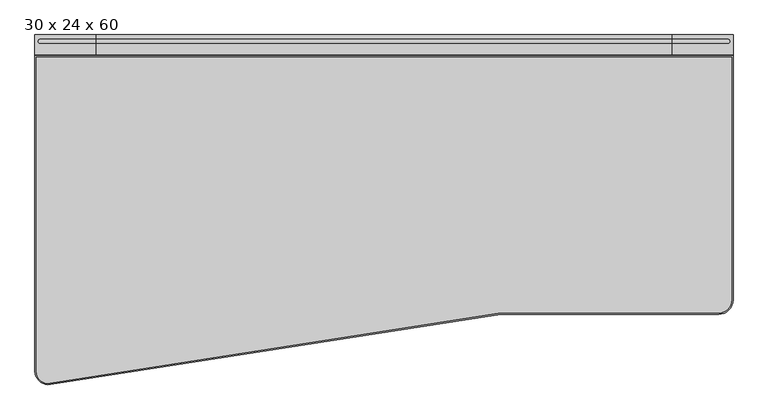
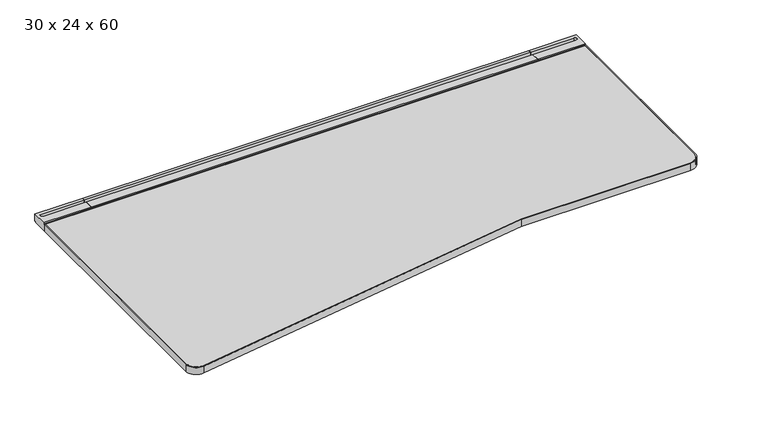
"""IFC4 building model written with IfcOpenShell, lengths in millimetres: furniture geometry, Steelcase - C Scape - Desking - Left Hand Transition : 30 x 24 x 60."""

from ifc_helpers import new_model, si_unit, point, frame, frame_2d, origin, place, context, project, spatial, polyline, circle_curve, trimmed, segment, composite_curve, outline, extrude, faceted_brep, source, transform, mapped, element, save
from ifc_brep_helpers import plane_surface, cylinder_surface, revolved_surface, advanced_brep


def furniture_30_x_24_x_60_703c3a2f(model_context):
    return source(origin(), model_context, "Body", "SolidModel", [
        advanced_brep(
        [(134.6072876, -45.3135132, 703.3768), (134.6072876, -4.0331902, 703.3768), (134.6072876, -3.2278472, 705.1038636), (134.6072876, 0.0, 705.1038636), (134.6072876, 0.0, 725.932), (134.6072876, -8.5111084, 725.932), (134.6072876, -8.5111084, 713.486), (134.6072876, -19.3290527, 713.486), (134.6072876, -19.3290527, 725.932), (134.6072876, -42.7750923, 725.932), (134.6072876, -42.7750923, 722.4268341), (134.6072876, -45.3135132, 722.4268341), (1.5875, -45.3135132, 703.3768), (1.5875, -45.3135132, 722.4268341), (1.5875, -42.7750923, 722.4268341), (1.5875, -42.7750923, 725.932), (1.5875, 0.0, 725.932), (1.5875, 0.0, 705.1038636), (1.5875, -3.2278472, 705.1038636), (1.5875, -4.0331902, 703.3768), (13.3495728, -19.3290527, 725.932), (13.3495728, -8.5111084, 725.932), (13.3495728, -8.5111084, 713.486), (13.3495728, -19.3290527, 713.486)],
        [
            (0, 1),
            (1, 2),
            (2, 3),
            (3, 4),
            (4, 5),
            (5, 6),
            (6, 7),
            (7, 8),
            (8, 9),
            (9, 10),
            (10, 11),
            (11, 0),
            (12, 13),
            (13, 14),
            (14, 15),
            (15, 16),
            (16, 17),
            (17, 18),
            (18, 19),
            (19, 12),
            (0, 12),
            (19, 1),
            (18, 2),
            (17, 3),
            (16, 4),
            (15, 9),
            (8, 20),
            (20, 21, circle_curve(frame((13.3495728, -13.9200806, 725.932), z_axis=(0.0, 0.0, -1.0), x_axis=(1.0, 0.0, 0.0)), 5.4089722)),
            (21, 5),
            (14, 10),
            (13, 11),
            (6, 22),
            (22, 23, circle_curve(frame((13.3495728, -13.9200806, 713.486), z_axis=(0.0, 0.0, 1.0), x_axis=(1.0, 0.0, 0.0)), 5.4089722)),
            (23, 7),
            (21, 22),
            (20, 23),
        ],
        [
            plane_surface(frame((134.6072876, -45.3135132, 703.3768), z_axis=(1.0, 0.0, 0.0), x_axis=(0.0, 1.0, 0.0))),
            plane_surface(frame((1.5875, -45.3135132, 703.3768), z_axis=(-1.0, 0.0, 0.0), x_axis=(0.0, -1.0, 0.0))),
            plane_surface(frame((134.6072876, -45.3135132, 703.3768), z_axis=(0.0, 0.0, -1.0), x_axis=(-1.0, 0.0, 0.0))),
            plane_surface(frame((134.6072876, -4.0331902, 703.3768), z_axis=(0.0, 0.9063077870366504, -0.4226182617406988), x_axis=(-1.0, 0.0, 0.0))),
            plane_surface(frame((134.6072876, -3.2278472, 705.1038636), z_axis=(0.0, 0.0, -1.0), x_axis=(-1.0, 0.0, 0.0))),
            plane_surface(frame((134.6072876, 0.0, 705.1038636), z_axis=(0.0, 1.0, 0.0), x_axis=(-1.0, 0.0, 0.0))),
            plane_surface(frame((134.6072876, 0.0, 725.932), z_axis=(0.0, 0.0, 1.0), x_axis=(-1.0, 0.0, 0.0))),
            plane_surface(frame((134.6072876, -42.7750923, 725.932), z_axis=(0.0, -1.0, 0.0), x_axis=(-1.0, 0.0, 0.0))),
            plane_surface(frame((134.6072876, -42.7750923, 722.4268341), z_axis=(0.0, 0.0, 1.0), x_axis=(-1.0, 0.0, 0.0))),
            plane_surface(frame((134.6072876, -45.3135132, 722.4268341), z_axis=(0.0, -1.0, 0.0), x_axis=(-1.0, 0.0, 0.0))),
            plane_surface(frame((13.3495728, -8.5111084, 713.486), z_axis=(0.0, 0.0, 1.0), x_axis=(1.0, 0.0, 0.0))),
            plane_surface(frame((134.6072876, -8.5111084, 731.2180541), z_axis=(0.0, -1.0, 0.0), x_axis=(0.0, 0.0, -1.0))),
            revolved_surface(polyline([(18.758545, -13.9200806, 725.932), (18.758545, -13.9200806, 713.486)]), (13.3495728, -13.9200806, 713.486), (0.0, 0.0, 1.0)),
            plane_surface(frame((13.3495728, -19.3290527, 731.2180541), z_axis=(0.0, 1.0, 0.0), x_axis=(0.0, 0.0, -1.0))),
        ],
        [
            (0, [[1, 2, 3, 4, 5, 6, 7, 8, 9, 10, 11, 12]]),
            (1, [[13, 14, 15, 16, 17, 18, 19, 20]]),
            (2, [[-1, 21, -20, 22]]),
            (3, [[-2, -22, -19, 23]]),
            (4, [[-3, -23, -18, 24]]),
            (5, [[-4, -24, -17, 25]]),
            (6, [[-16, 26, -9, 27, 28, 29, -5, -25]]),
            (7, [[-10, -26, -15, 30]]),
            (8, [[-11, -30, -14, 31]]),
            (9, [[-12, -31, -13, -21]]),
            (10, [[32, 33, 34, -7]]),
            (11, [[-32, -6, -29, 35]]),
            (12, [[-33, -35, -28, 36]]),
            (13, [[-34, -36, -27, -8]]),
        ],
    ),
        faceted_brep([(20.6382632, -565.0752923, 700.7093833), (34.9133728, -565.0752923, 693.4200291), (116.3525879, -565.0752923, 693.4200291), (118.9731301, -565.0752923, 679.3263935), (134.6072876, -565.0752923, 679.3263935), (134.6072876, -565.0752923, 703.3768), (20.6382632, -565.0752923, 703.3768), (20.6382632, -4.0331902, 700.7093833), (20.6382632, -4.0331902, 703.3768), (134.6072876, -4.0331902, 703.3768), (134.6072876, -4.0331902, 629.3866), (128.2588347, -4.0331902, 629.3866), (116.3525879, -4.0331902, 693.4200291), (34.9133728, -4.0331902, 693.4200291), (128.2588347, -364.1172546, 629.3866), (121.1384051, -376.5599397, 667.6812472), (134.6072876, -364.1172546, 629.3866), (134.6072876, -376.5599397, 667.6812472)], [[[0, 1, 2, 3, 4, 5, 6]], [[7, 8, 9, 10, 11, 12, 13]], [[1, 0, 7, 13]], [[2, 1, 13, 12]], [[12, 11, 14, 15, 3, 2]], [[11, 10, 16, 14]], [[10, 9, 5, 4, 17, 16]], [[6, 5, 9, 8]], [[0, 6, 8, 7]], [[15, 17, 4, 3]], [[17, 15, 14, 16]]]),
        extrude(outline(composite_curve([segment(polyline([(-293.5216187, 657.3775839), (-559.0022133, 680.1371551)]), True, "CONTINUOUS"), segment(trimmed(circle_curve(frame_2d((-558.7581271, 682.9843154)), 2.8576039), [point((-559.0022133, 680.1371551))], [point((-561.5383043, 682.3236226))], False, "CARTESIAN"), True, "CONTINUOUS"), segment(polyline([(-561.5383043, 682.3236226), (-566.0887542, 701.4717905), (-557.8334441, 701.4717905), (-557.8334441, 703.3768), (-442.6683806, 703.3768), (-442.6683806, 696.3917953), (-318.2108611, 696.3917953), (-318.2108611, 703.3768), (-293.5216187, 703.3768), (-293.5216187, 657.3775839)]), True, "CONTINUOUS")], self_intersect=False)), frame((725.424, 0.0, 0.0), z_axis=(1.0, 0.0, 0.0), x_axis=(0.0, 1.0, 0.0)), (0.0, 0.0, 1.0), 73.152),
        advanced_brep(
        [(1389.3927124, -45.3135132, 703.3768), (1389.3927124, -45.3135132, 722.4268341), (1389.3927124, -42.7750923, 722.4268341), (1389.3927124, -42.7750923, 725.932), (1389.3927124, -19.3290527, 725.932), (1389.3927124, -19.3290527, 713.486), (1389.3927124, -8.5111084, 713.486), (1389.3927124, -8.5111084, 725.932), (1389.3927124, 0.0, 725.932), (1389.3927124, 0.0, 705.1038636), (1389.3927124, -3.2278472, 705.1038636), (1389.3927124, -4.0331902, 703.3768), (1522.4125, -45.3135132, 703.3768), (1522.4125, -4.0331902, 703.3768), (1522.4125, -3.2278472, 705.1038636), (1522.4125, 0.0, 705.1038636), (1522.4125, 0.0, 725.932), (1522.4125, -42.7750923, 725.932), (1522.4125, -42.7750923, 722.4268341), (1522.4125, -45.3135132, 722.4268341), (1510.6504272, -8.5111084, 725.932), (1510.6504272, -19.3290527, 725.932), (1510.6504272, -19.3290527, 713.486), (1510.6504272, -8.5111084, 713.486)],
        [
            (0, 1),
            (1, 2),
            (2, 3),
            (3, 4),
            (4, 5),
            (5, 6),
            (6, 7),
            (7, 8),
            (8, 9),
            (9, 10),
            (10, 11),
            (11, 0),
            (12, 13),
            (13, 14),
            (14, 15),
            (15, 16),
            (16, 17),
            (17, 18),
            (18, 19),
            (19, 12),
            (11, 13),
            (12, 0),
            (10, 14),
            (9, 15),
            (8, 16),
            (7, 20),
            (20, 21, circle_curve(frame((1510.6504272, -13.9200806, 725.932), z_axis=(0.0, 0.0, -1.0), x_axis=(-1.0, 0.0, 0.0)), 5.4089722)),
            (21, 4),
            (3, 17),
            (2, 18),
            (1, 19),
            (5, 22),
            (22, 23, circle_curve(frame((1510.6504272, -13.9200806, 713.486), z_axis=(0.0, 0.0, 1.0), x_axis=(-1.0, 0.0, 0.0)), 5.4089722)),
            (23, 6),
            (23, 20),
            (22, 21),
        ],
        [
            plane_surface(frame((1389.3927124, -45.3135132, 703.3768), z_axis=(-1.0, 0.0, 0.0), x_axis=(0.0, 1.0, 0.0))),
            plane_surface(frame((1522.4125, -45.3135132, 703.3768), z_axis=(1.0, 0.0, 0.0), x_axis=(0.0, -1.0, 0.0))),
            plane_surface(frame((1389.3927124, -45.3135132, 703.3768), z_axis=(0.0, 0.0, -1.0), x_axis=(1.0, 0.0, 0.0))),
            plane_surface(frame((1389.3927124, -4.0331902, 703.3768), z_axis=(0.0, 0.9063077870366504, -0.4226182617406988), x_axis=(1.0, 0.0, 0.0))),
            plane_surface(frame((1389.3927124, -3.2278472, 705.1038636), z_axis=(0.0, 0.0, -1.0), x_axis=(1.0, 0.0, 0.0))),
            plane_surface(frame((1389.3927124, 0.0, 705.1038636), z_axis=(0.0, 1.0, 0.0), x_axis=(1.0, 0.0, 0.0))),
            plane_surface(frame((1389.3927124, 0.0, 725.932), z_axis=(0.0, 0.0, 1.0), x_axis=(1.0, 0.0, 0.0))),
            plane_surface(frame((1389.3927124, -42.7750923, 725.932), z_axis=(0.0, -1.0, 0.0), x_axis=(1.0, 0.0, 0.0))),
            plane_surface(frame((1389.3927124, -42.7750923, 722.4268341), z_axis=(0.0, 0.0, 1.0), x_axis=(1.0, 0.0, 0.0))),
            plane_surface(frame((1389.3927124, -45.3135132, 722.4268341), z_axis=(0.0, -1.0, 0.0), x_axis=(1.0, 0.0, 0.0))),
            plane_surface(frame((1510.6504272, -8.5111084, 713.486), z_axis=(0.0, 0.0, 1.0), x_axis=(-1.0, 0.0, 0.0))),
            plane_surface(frame((1389.3927124, -8.5111084, 731.2180541), z_axis=(0.0, -1.0, 0.0), x_axis=(0.0, 0.0, -1.0))),
            revolved_surface(polyline([(1505.2414549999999, -13.9200806, 725.932), (1505.2414549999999, -13.9200806, 713.486)]), (1510.6504272, -13.9200806, 713.486), (0.0, 0.0, 1.0)),
            plane_surface(frame((1510.6504272, -19.3290527, 731.2180541), z_axis=(0.0, 1.0, 0.0), x_axis=(0.0, 0.0, -1.0))),
        ],
        [
            (0, [[1, 2, 3, 4, 5, 6, 7, 8, 9, 10, 11, 12]]),
            (1, [[13, 14, 15, 16, 17, 18, 19, 20]]),
            (2, [[21, -13, 22, -12]]),
            (3, [[23, -14, -21, -11]]),
            (4, [[24, -15, -23, -10]]),
            (5, [[25, -16, -24, -9]]),
            (6, [[-25, -8, 26, 27, 28, -4, 29, -17]]),
            (7, [[30, -18, -29, -3]]),
            (8, [[31, -19, -30, -2]]),
            (9, [[-22, -20, -31, -1]]),
            (10, [[-6, 32, 33, 34]]),
            (11, [[35, -26, -7, -34]]),
            (12, [[36, -27, -35, -33]]),
            (13, [[-5, -28, -36, -32]]),
        ],
    ),
        faceted_brep([(1503.3617368, -565.0752923, 700.7093833), (1503.3617368, -565.0752923, 703.3768), (1389.3927124, -565.0752923, 703.3768), (1389.3927124, -565.0752923, 679.3263935), (1405.0268699, -565.0752923, 679.3263935), (1407.6474121, -565.0752923, 693.4200291), (1489.0866272, -565.0752923, 693.4200291), (1503.3617368, -4.0331902, 700.7093833), (1489.0866272, -4.0331902, 693.4200291), (1407.6474121, -4.0331902, 693.4200291), (1395.7411653, -4.0331902, 629.3866), (1389.3927124, -4.0331902, 629.3866), (1389.3927124, -4.0331902, 703.3768), (1503.3617368, -4.0331902, 703.3768), (1402.8615949, -376.5599397, 667.6812472), (1395.7411653, -364.1172546, 629.3866), (1389.3927124, -364.1172546, 629.3866), (1389.3927124, -376.5599397, 667.6812472)], [[[0, 1, 2, 3, 4, 5, 6]], [[7, 8, 9, 10, 11, 12, 13]], [[6, 8, 7, 0]], [[5, 9, 8, 6]], [[9, 5, 4, 14, 15, 10]], [[10, 15, 16, 11]], [[11, 16, 17, 3, 2, 12]], [[1, 13, 12, 2]], [[0, 7, 13, 1]], [[14, 4, 3, 17]], [[17, 16, 15, 14]]]),
        extrude(outline(polyline([(-8.5111084, 725.932), (0.0, 725.932), (0.0, 705.1038636), (-3.2278472, 705.1038636), (-4.0331902, 703.3768), (-45.3135132, 703.3768), (-45.3135132, 722.4268341), (-42.7750923, 722.4268341), (-42.7750923, 725.932), (-19.3290527, 725.932), (-19.3290527, 713.486), (-8.5111084, 713.486), (-8.5111084, 725.932)])), frame((134.6072876, 0.0, 0.0), z_axis=(1.0, 0.0, 0.0), x_axis=(0.0, 1.0, 0.0)), (0.0, 0.0, 1.0), 1254.7854248),
        extrude(outline(polyline([(1389.3927124, -4.0331902), (1389.3927124, -293.5216187), (134.6072876, -293.5216187), (134.6072876, -4.0331902), (1389.3927124, -4.0331902)])), frame((0.0, 0.0, 629.3866), z_axis=(0.0, 0.0, 1.0), x_axis=(1.0, 0.0, 0.0)), (0.0, 0.0, 1.0), 73.9902),
        advanced_brep(
        [(1519.3645, -48.3660689, 723.9), (4.6355, -48.3660689, 723.9), (4.6355, -734.677348, 723.9), (33.9511745, -759.7737122, 723.9), (1015.9997595, -606.5490234, 723.9), (1490.6625, -606.5490234, 723.9), (1519.3615234, -577.85, 723.9), (1519.3645, -48.3660689, 703.3768), (1519.3645, -577.85, 703.3768), (1490.6625, -606.5490234, 703.3768), (1015.9997595, -606.5490234, 703.3768), (33.9511745, -759.7737122, 703.3768), (4.6355, -734.677348, 703.3768), (4.6355, -48.3660689, 703.3768)],
        [
            (0, 1),
            (1, 2),
            (2, 3, circle_curve(frame((30.0355, -734.677348, 723.9), z_axis=(0.0, 0.0, 1.0), x_axis=(-1.0, 0.0, 0.0)), 25.4)),
            (3, 4),
            (4, 5),
            (5, 6, circle_curve(frame((1490.6625, -577.85, 723.9), z_axis=(0.0, 0.0, 1.0), x_axis=(-1.0, 0.0, 0.0)), 28.6990234)),
            (6, 0),
            (7, 8),
            (8, 9, circle_curve(frame((1490.6625, -577.85, 703.3768), z_axis=(0.0, 0.0, -1.0), x_axis=(-1.0, 0.0, 0.0)), 28.6990234)),
            (9, 10),
            (10, 11),
            (11, 12, circle_curve(frame((30.0355, -734.677348, 703.3768), z_axis=(0.0, 0.0, -1.0), x_axis=(-1.0, 0.0, 0.0)), 25.4)),
            (12, 13),
            (13, 7),
            (0, 7),
            (13, 1),
            (12, 2),
            (11, 3),
            (10, 4),
            (9, 5),
            (8, 6),
        ],
        [
            plane_surface(frame((4.6355, -48.3660689, 723.9), z_axis=(0.0, 0.0, 1.0), x_axis=(-1.0, 0.0, 0.0))),
            plane_surface(frame((4.6355, -48.3660689, 703.3768), z_axis=(0.0, 0.0, -1.0), x_axis=(1.0, 0.0, 0.0))),
            plane_surface(frame((1519.3645, -48.3660689, 723.9), z_axis=(0.0, 1.0, 0.0), x_axis=(0.0, 0.0, -1.0))),
            plane_surface(frame((4.6355, -48.3660689, 723.9), z_axis=(-1.0, 0.0, 0.0), x_axis=(0.0, 0.0, -1.0))),
            cylinder_surface(frame((30.0355, -734.677348, 703.3768), z_axis=(0.0, 0.0, 1.0), x_axis=(-1.0, 0.0, 0.0)), 25.4),
            plane_surface(frame((33.9511745, -759.7737122, 723.9), z_axis=(0.1541604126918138, -0.9880458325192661, 0.0), x_axis=(0.0, 0.0, -1.0))),
            plane_surface(frame((1015.9997595, -606.5490234, 723.9), z_axis=(0.0, -1.0, 0.0), x_axis=(0.0, 0.0, -1.0))),
            cylinder_surface(frame((1490.6625, -577.85, 703.3768), z_axis=(0.0, 0.0, 1.0), x_axis=(-1.0, 0.0, 0.0)), 28.6990234),
            plane_surface(frame((1519.3645, -577.85, 723.9), z_axis=(1.0, 0.0, 0.0), x_axis=(0.0, 0.0, -1.0))),
        ],
        [
            (0, [[1, 2, 3, 4, 5, 6, 7]]),
            (1, [[8, 9, 10, 11, 12, 13, 14]]),
            (2, [[-1, 15, -14, 16]]),
            (3, [[-2, -16, -13, 17]]),
            (4, [[-3, -17, -12, 18]]),
            (5, [[-4, -18, -11, 19]]),
            (6, [[-5, -19, -10, 20]]),
            (7, [[-6, -20, -9, 21]]),
            (8, [[-7, -21, -8, -15]]),
        ],
    ),
        extrude(outline(composite_curve([segment(polyline([(1016.0, -609.6), (35.7608132, -762.5423763)]), True, "CONTINUOUS"), segment(trimmed(circle_curve(frame_2d((31.1963073, -733.2875177)), 29.6088073), [point((35.7608132, -762.5423763))], [point((1.5875, -733.2875177))], False, "CARTESIAN"), True, "CONTINUOUS"), segment(polyline([(1.5875, -733.2875177), (1.5875, -45.3150923), (1522.4125, -45.3150923), (1522.4125, -577.85)]), True, "CONTINUOUS"), segment(trimmed(circle_curve(frame_2d((1490.6625, -577.85)), 31.75), [point((1522.4125, -577.85))], [point((1490.6625, -609.6))], False, "CARTESIAN"), True, "CONTINUOUS"), segment(polyline([(1490.6625, -609.6), (1016.0, -609.6)]), True, "CONTINUOUS")], self_intersect=False), holes=[composite_curve([segment(polyline([(4.6384766, -48.3660689), (4.6384766, -733.2875177)]), True, "CONTINUOUS"), segment(trimmed(circle_curve(frame_2d((31.1963073, -733.2875177)), 26.5578307), [point((4.6384766, -733.2875177))], [point((35.2904734, -759.5278717))], True, "CARTESIAN"), True, "CONTINUOUS"), segment(polyline([(35.2904734, -759.5278717), (1015.763416, -606.5490234), (1490.6625, -606.5490234)]), True, "CONTINUOUS"), segment(trimmed(circle_curve(frame_2d((1490.6625, -577.85)), 28.6990234), [point((1490.6625, -606.5490234))], [point((1519.3615234, -577.85))], True, "CARTESIAN"), True, "CONTINUOUS"), segment(polyline([(1519.3615234, -577.85), (1519.3615234, -48.3660689), (4.6384766, -48.3660689)]), True, "CONTINUOUS")], self_intersect=False)]), frame((0.0, 0.0, 703.3768), z_axis=(0.0, 0.0, 1.0), x_axis=(1.0, 0.0, 0.0)), (0.0, 0.0, 1.0), 20.5232),
    ])


if __name__ == "__main__":
    model = new_model("IFC4")
    model_context = context("Model", 3, world=origin())
    ifc_project = project(units=[si_unit("LENGTHUNIT", "METRE", prefix="MILLI")], contexts=[model_context])
    site = spatial("IfcSite", under=ifc_project)
    building = spatial("IfcBuilding", under=site)
    placement = place(None, origin())
    furniture_30_x_24_x_60_shape = furniture_30_x_24_x_60_703c3a2f(model_context)
    element("IfcFurniture", 1, ObjectType="Steelcase - C Scape - Desking - Left Hand Transition : 30 x 24 x 60", at=placement, inside=building, context=model_context, shape_type="MappedRepresentation", body=[
        mapped(furniture_30_x_24_x_60_shape, transform((0.0, 0.0, 0.0), x_axis=(1.0, 0.0, 0.0), y_axis=(0.0, 1.0, 0.0), z_axis=(0.0, 0.0, 1.0))),
    ])
    save(model, "model.ifc")
